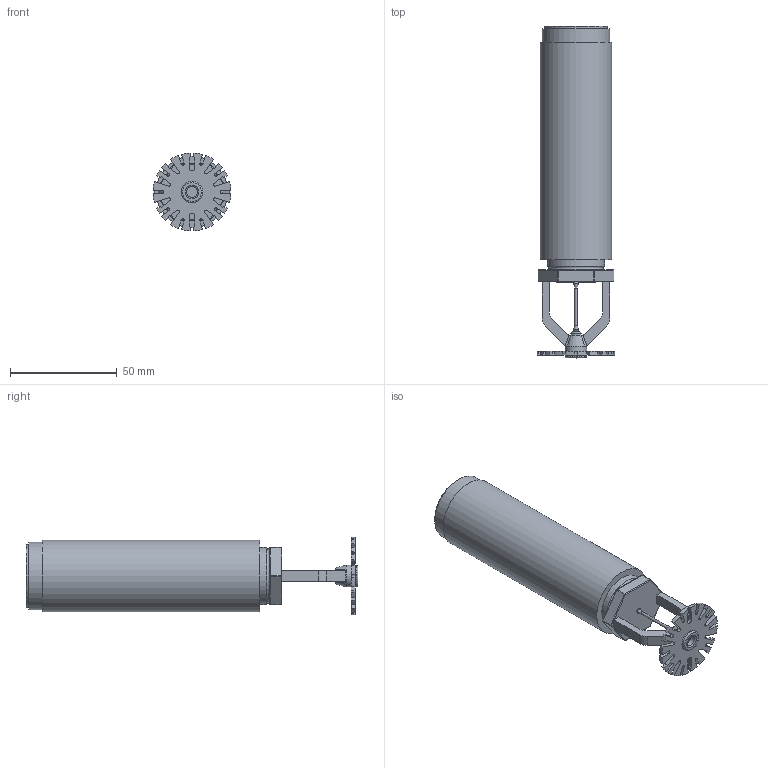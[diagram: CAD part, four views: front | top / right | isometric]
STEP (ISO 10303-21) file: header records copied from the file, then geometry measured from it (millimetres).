
FILE_DESCRIPTION(/* description */ (''),/* implementation_level */ '2;1');
FILE_NAME(/* name */ 'C:\Files for Export\V3605-V3615\STEP\Victaulic_FP-Sprinkler_V3615_DRY_SR_Pendent\Victaulic_FP-Sprinkler_V3615_DRY_SR_Pendent (BSPT)_PLAIN_1 (25).stp',/* time_stamp */ '2024-05-22T08:40:58+02:00',/* author */ ('vjadhav'),/* organization */ (''),/* preprocessor_version */ 'ST-DEVELOPER v18.1',/* originating_system */ 'Autodesk Inventor 2020',/* authorisation */ '');
FILE_SCHEMA (('AUTOMOTIVE_DESIGN { 1 0 10303 214 3 1 1 }'));
Length unit declared in the file: inch
Products named in the file (2): V3615_plain-01.0; V3615_Plain Barrel
Assembly tree (1 placements, depth 2):
  V3615_plain-01.0
    V3615_Plain Barrel
Bounding box: 36.48 x 155.26 x 36.48 mm (x, y, z)
Volume: 43846.9 mm3; surface area: 27597 mm2
Topology: 1 solids, 1 shells, 225 faces, 614 edges, 393 vertices
Faces by surface type: plane 106, cylinder 87, sphere 12, bspline 10, cone 6, torus 4
Full cylindrical faces by diameter (mm): 1.27 x1, 5.08 x2, 10.16 x2, 20.93 x1, 26.645 x1, 26.67 x1, 29.185 x1, 31.725 x1, 33.401 x1
Entity records: 7739 total; most frequent: CARTESIAN_POINT 1637, DIRECTION 1249, ORIENTED_EDGE 1218, EDGE_CURVE 609, AXIS2_PLACEMENT_3D 453, VERTEX_POINT 393, LINE 343, VECTOR 343
